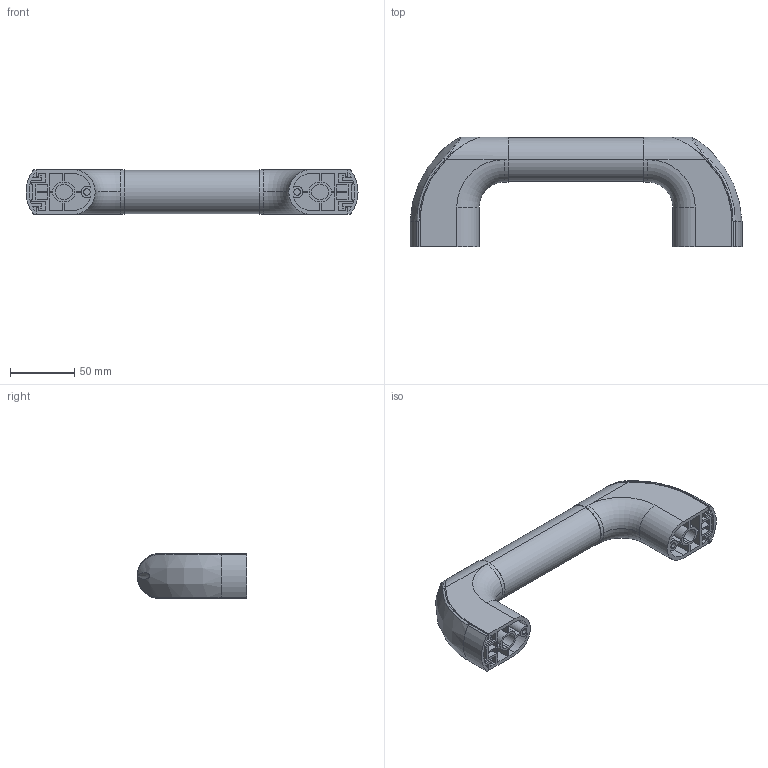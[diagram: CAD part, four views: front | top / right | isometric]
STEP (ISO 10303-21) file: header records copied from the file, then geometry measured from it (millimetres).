
FILE_DESCRIPTION (( 'STEP AP203' ), '1' );
FILE_NAME ('SK4-224-34-200C.STEP', '2017-06-27T06:19:36', ( 'admin' ), ( 'Microsoft' ), 'SwSTEP 2.0', 'SolidWorks 2015', '' );
FILE_SCHEMA (( 'CONFIG_CONTROL_DESIGN' ));
Length unit declared in the file: millimetre
Products named in the file (3): SK4-224-34-200C; SK4-224-34-200C 釱赽
Assembly tree (3 placements, depth 2):
  SK4-224-34-200C
    SK4-224-34-200C
    SK4-224-34-200C 釱赽  x2
Bounding box: 259 x 85.5 x 35 mm (x, y, z)
Volume: 349505.9 mm3; surface area: 65395 mm2
Topology: 3 solids, 3 shells, 272 faces, 714 edges, 460 vertices
Faces by surface type: plane 174, cylinder 56, bspline 38, torus 4
Entity records: 5919 total; most frequent: CARTESIAN_POINT 2306, ORIENTED_EDGE 716, DIRECTION 624, EDGE_CURVE 358, VECTOR 258, LINE 258, VERTEX_POINT 232, AXIS2_PLACEMENT_3D 183
